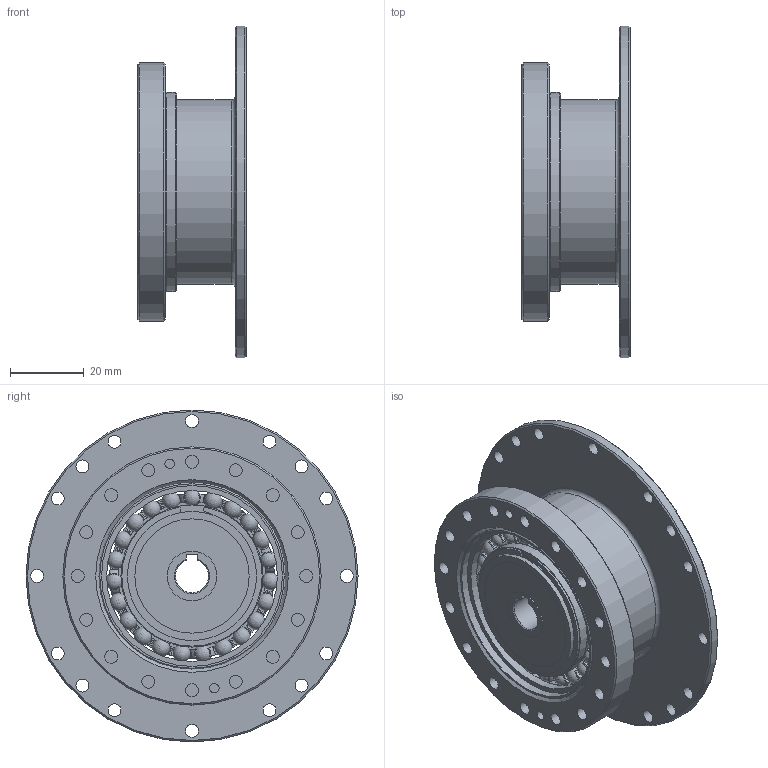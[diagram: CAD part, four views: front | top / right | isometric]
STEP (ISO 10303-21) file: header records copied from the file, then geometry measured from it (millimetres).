
FILE_DESCRIPTION(/* description */ (''),/* implementation_level */ '2;1');
FILE_NAME(/* name */ 'Getriebeset_HTG_51_FK.stp',/* time_stamp */ '2026-03-09T10:58:12+01:00',/* author */ (''),/* organization */ (''),/* preprocessor_version */ 'ST-DEVELOPER v19.4',/* originating_system */ 'SIEMENS PLM Software NX2212.9120',/* authorisation */ '');
FILE_SCHEMA (('AUTOMOTIVE_DESIGN { 1 0 10303 214 3 1 1 1 }'));
Length unit declared in the file: millimetre
Products named in the file (1): Getriebeset_HTG_51_FK
Bounding box: 29.4 x 90 x 90 mm (x, y, z)
Volume: 40199.7 mm3; surface area: 40057.6 mm2
Topology: 30 solids, 30 shells, 289 faces, 834 edges, 567 vertices
Faces by surface type: cylinder 96, plane 69, torus 44, cone 42, sphere 35, bspline 3
Full cylindrical faces by diameter (mm): 2.6 x2, 3.5 x32, 13.5 x1, 31 x1, 33.88 x1, 35 x3, 38.5 x3, 43.5 x1, 46.3 x2, 49 x2, 49.9 x1, 50.5 x1, 51.2 x1, 54 x1, 70 x2, 90 x1
Entity records: 12054 total; most frequent: CARTESIAN_POINT 5305, ORIENTED_EDGE 1276, DIRECTION 1243, EDGE_CURVE 638, AXIS2_PLACEMENT_3D 574, VERTEX_POINT 490, EDGE_LOOP 427, ADVANCED_FACE 289
